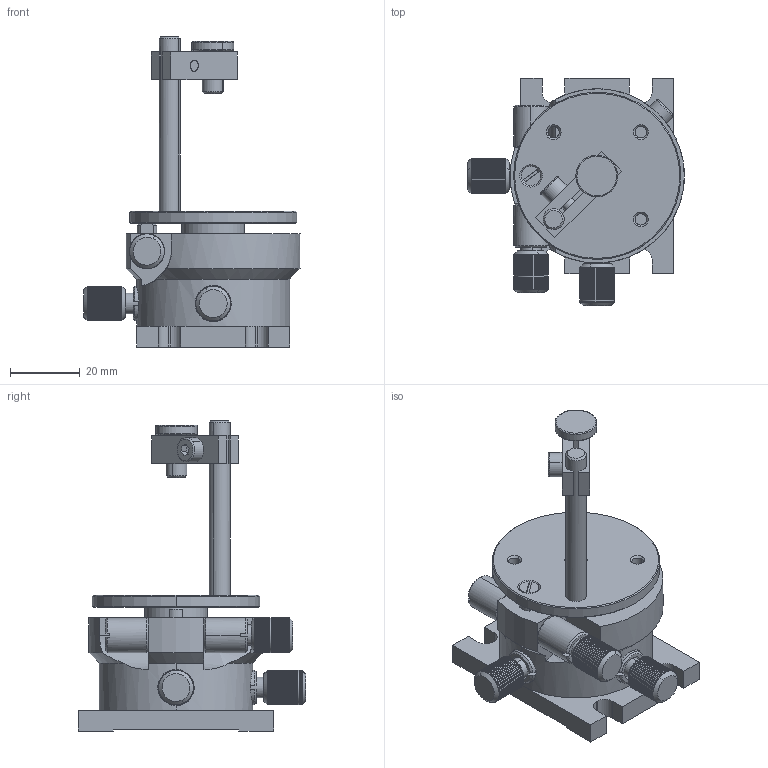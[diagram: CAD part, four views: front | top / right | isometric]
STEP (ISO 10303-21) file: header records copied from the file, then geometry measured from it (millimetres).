
FILE_DESCRIPTION((''),'2;1');
FILE_NAME('6PT110 SB.stp','2017-03-23T11:18:19',(''),(''),'Mechanical Desktop 2011','Mechanical Desktop 2011',', , ');
FILE_SCHEMA(('CONFIG_CONTROL_DESIGN'));
Length unit declared in the file: millimetre
Products named in the file (1): Product
Bounding box: 62.17 x 65.17 x 89 mm (x, y, z)
Volume: 68927.4 mm3; surface area: 25156.9 mm2
Topology: 1 solids, 18 shells, 1483 faces, 3550 edges, 2104 vertices
Faces by surface type: plane 1132, bspline 131, cone 110, cylinder 96, torus 8, sphere 6
Entity records: 44326 total; most frequent: CARTESIAN_POINT 9962, DIRECTION 7387, ORIENTED_EDGE 7048, EDGE_CURVE 3524, AXIS2_PLACEMENT_3D 2608, VECTOR 2171, LINE 2171, VERTEX_POINT 2104
